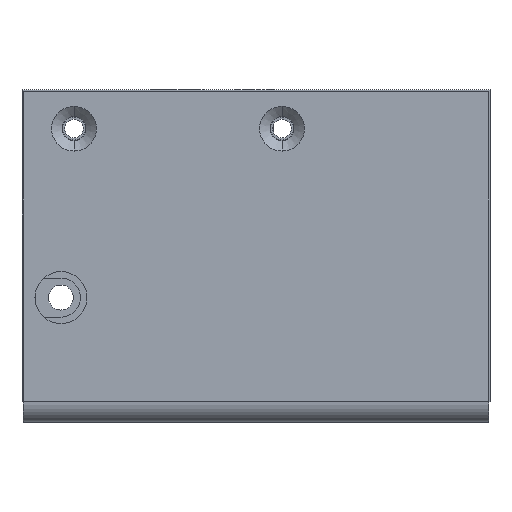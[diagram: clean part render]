
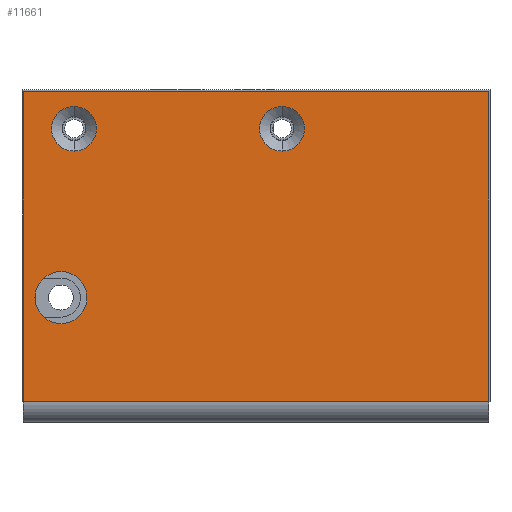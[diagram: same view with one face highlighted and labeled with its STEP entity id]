
A CAD part, front view. The second image highlights one B-rep face of the part: STEP entity #11661.
In plain terms, the highlighted planar face has unit normal (0, -1, 0) as drawn and (-1, 0, 0) by its records, which use the part's own axes.
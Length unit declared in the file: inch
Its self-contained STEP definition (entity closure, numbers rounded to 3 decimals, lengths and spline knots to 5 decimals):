
#10971=DIRECTION('',(0.,0.,-1.));
#10972=VECTOR('',#10971,2.24);
#10973=CARTESIAN_POINT('',(-0.5005,1.49,1.12));
#10974=LINE('',#10973,#10972);
#10992=DIRECTION('',(0.,1.,0.));
#10993=VECTOR('',#10992,1.49);
#10994=CARTESIAN_POINT('',(-0.5005,0.,1.12));
#10995=LINE('',#10994,#10993);
#11038=DIRECTION('',(0.,1.,0.));
#11039=VECTOR('',#11038,1.49);
#11040=CARTESIAN_POINT('',(-0.5005,0.,-1.12));
#11041=LINE('',#11040,#11039);
#11046=DIRECTION('',(0.,0.,-1.));
#11047=VECTOR('',#11046,2.24);
#11048=CARTESIAN_POINT('',(-0.5005,0.,1.12));
#11049=LINE('',#11048,#11047);
#11050=CARTESIAN_POINT('',(-0.5005,0.99,0.9375));
#11051=DIRECTION('',(-1.,0.,0.));
#11052=DIRECTION('',(0.,-1.,0.));
#11053=AXIS2_PLACEMENT_3D('',#11050,#11051,#11052);
#11055=CARTESIAN_POINT('',(-0.5005,0.99,0.9375));
#11056=DIRECTION('',(-1.,0.,0.));
#11057=DIRECTION('',(0.,1.,0.));
#11058=AXIS2_PLACEMENT_3D('',#11055,#11056,#11057);
#11080=CARTESIAN_POINT('',(-0.5005,0.178,0.875));
#11081=DIRECTION('',(-1.,0.,0.));
#11082=DIRECTION('',(0.,-1.,0.));
#11083=AXIS2_PLACEMENT_3D('',#11080,#11081,#11082);
#11098=CARTESIAN_POINT('',(-0.5005,0.178,0.875));
#11099=DIRECTION('',(-1.,0.,0.));
#11100=DIRECTION('',(0.,1.,0.));
#11101=AXIS2_PLACEMENT_3D('',#11098,#11099,#11100);
#11152=CARTESIAN_POINT('',(-0.5005,0.178,-0.125));
#11153=DIRECTION('',(-1.,0.,0.));
#11154=DIRECTION('',(0.,-1.,0.));
#11155=AXIS2_PLACEMENT_3D('',#11152,#11153,#11154);
#11170=CARTESIAN_POINT('',(-0.5005,0.178,-0.125));
#11171=DIRECTION('',(-1.,0.,0.));
#11172=DIRECTION('',(0.,1.,0.));
#11173=AXIS2_PLACEMENT_3D('',#11170,#11171,#11172);
#11248=CARTESIAN_POINT('',(-0.5005,1.49,1.12));
#11249=CARTESIAN_POINT('',(-0.5005,1.49,-1.12));
#11250=VERTEX_POINT('',#11248);
#11251=VERTEX_POINT('',#11249);
#11256=CARTESIAN_POINT('',(-0.5005,0.,1.12));
#11257=VERTEX_POINT('',#11256);
#11260=CARTESIAN_POINT('',(-0.5005,0.,-1.12));
#11261=VERTEX_POINT('',#11260);
#11272=CARTESIAN_POINT('',(-0.5005,0.865,0.9375));
#11273=CARTESIAN_POINT('',(-0.5005,1.115,0.9375));
#11274=VERTEX_POINT('',#11272);
#11275=VERTEX_POINT('',#11273);
#11296=CARTESIAN_POINT('',(-0.5005,0.2855,-0.125));
#11297=CARTESIAN_POINT('',(-0.5005,0.0705,-0.125));
#11298=VERTEX_POINT('',#11296);
#11299=VERTEX_POINT('',#11297);
#11304=CARTESIAN_POINT('',(-0.5005,0.2855,0.875));
#11305=CARTESIAN_POINT('',(-0.5005,0.0705,0.875));
#11306=VERTEX_POINT('',#11304);
#11307=VERTEX_POINT('',#11305);
#11631=CARTESIAN_POINT('',(-0.5005,0.,1.12));
#11632=DIRECTION('',(1.,0.,0.));
#11633=DIRECTION('',(0.,1.,0.));
#11634=AXIS2_PLACEMENT_3D('',#11631,#11632,#11633);
#11635=PLANE('',#11634);
#11636=ORIENTED_EDGE('',*,*,#11567,.F.);
#11638=ORIENTED_EDGE('',*,*,#11637,.T.);
#11639=ORIENTED_EDGE('',*,*,#11613,.T.);
#11640=ORIENTED_EDGE('',*,*,#11539,.F.);
#11641=EDGE_LOOP('',(#11636,#11638,#11639,#11640));
#11642=FACE_OUTER_BOUND('',#11641,.F.);
#11644=ORIENTED_EDGE('',*,*,#11643,.T.);
#11646=ORIENTED_EDGE('',*,*,#11645,.T.);
#11647=EDGE_LOOP('',(#11644,#11646));
#11648=FACE_BOUND('',#11647,.F.);
#11650=ORIENTED_EDGE('',*,*,#11649,.T.);
#11652=ORIENTED_EDGE('',*,*,#11651,.T.);
#11653=EDGE_LOOP('',(#11650,#11652));
#11654=FACE_BOUND('',#11653,.F.);
#11656=ORIENTED_EDGE('',*,*,#11655,.T.);
#11658=ORIENTED_EDGE('',*,*,#11657,.T.);
#11659=EDGE_LOOP('',(#11656,#11658));
#11660=FACE_BOUND('',#11659,.F.);
#11661=ADVANCED_FACE('',(#11642,#11648,#11654,#11660),#11635,.F.);
#11054=CIRCLE('',#11053,0.125);
#11059=CIRCLE('',#11058,0.125);
#11084=CIRCLE('',#11083,0.1075);
#11102=CIRCLE('',#11101,0.1075);
#11156=CIRCLE('',#11155,0.1075);
#11174=CIRCLE('',#11173,0.1075);
#11539=EDGE_CURVE('',#11250,#11251,#10974,.T.);
#11567=EDGE_CURVE('',#11257,#11250,#10995,.T.);
#11613=EDGE_CURVE('',#11261,#11251,#11041,.T.);
#11637=EDGE_CURVE('',#11257,#11261,#11049,.T.);
#11643=EDGE_CURVE('',#11274,#11275,#11054,.T.);
#11645=EDGE_CURVE('',#11275,#11274,#11059,.T.);
#11649=EDGE_CURVE('',#11307,#11306,#11084,.T.);
#11651=EDGE_CURVE('',#11306,#11307,#11102,.T.);
#11655=EDGE_CURVE('',#11299,#11298,#11156,.T.);
#11657=EDGE_CURVE('',#11298,#11299,#11174,.T.);
